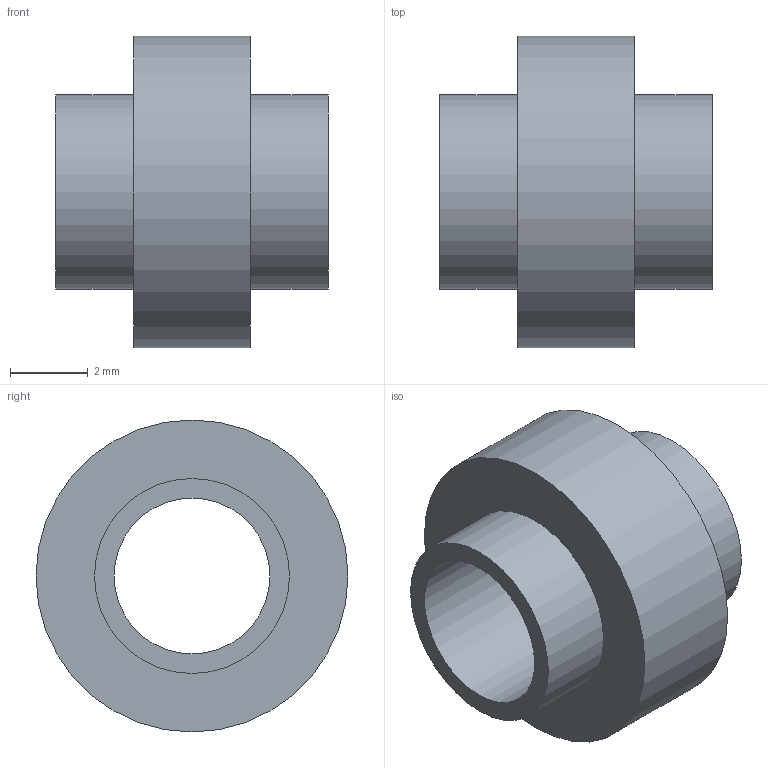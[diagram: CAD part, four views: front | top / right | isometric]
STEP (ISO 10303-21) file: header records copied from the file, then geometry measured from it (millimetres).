
FILE_DESCRIPTION(/* description */ ('STEP AP214'),/* implementation_level */ '2;1');
FILE_NAME(/* name */ 'Mounting Accessory GN 753.2-4-5-3-AB-NI',/* time_stamp */ '2024-12-09T13:57:45+01:00',/* author */ ('License CC BY-ND 4.0'),/* organization */ ('CADENAS'),/* preprocessor_version */ 'ST-DEVELOPER v19.3',/* originating_system */ 'PARTsolutions',/* authorisation */ ' ');
FILE_SCHEMA (('AUTOMOTIVE_DESIGN {1 0 10303 214 3 1 1}'));
Length unit declared in the file: millimetre
Products named in the file (1): Mounting Accessory GN 753.2-4-5-3-AB-NI
Bounding box: 7 x 8 x 8 mm (x, y, z)
Volume: 141.4 mm3; surface area: 301.6 mm2
Topology: 1 solids, 1 shells, 8 faces, 12 edges, 8 vertices
Faces by surface type: plane 4, cylinder 4
Full cylindrical faces by diameter (mm): 4 x1, 5 x2, 8 x1
Entity records: 198 total; most frequent: DIRECTION 34, CARTESIAN_POINT 25, AXIS2_PLACEMENT_3D 17, ORIENTED_EDGE 16, EDGE_LOOP 16, FACE_BOUND 16, EDGE_CURVE 8, VERTEX_POINT 8
